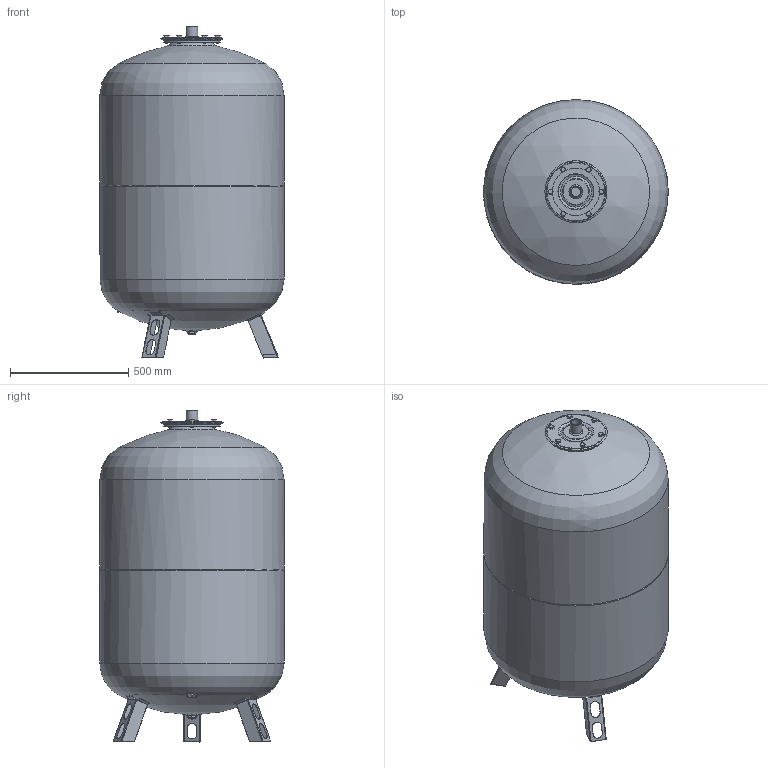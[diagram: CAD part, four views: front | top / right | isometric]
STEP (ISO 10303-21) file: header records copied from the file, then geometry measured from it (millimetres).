
FILE_DESCRIPTION(('STEP AP214'), '1');
FILE_NAME('WRV-500', '', ('UNSPECIFIED'), ('UNSPECIFIED'), 'ASCON STEP Converter 1.3', 'ASCON Math Kernel', '');
FILE_SCHEMA(('AUTOMOTIVE_DESIGN { 1 0 10303 214 3 1 1}'));
Length unit declared in the file: millimetre
Assembly tree (1 placements, depth 2):
  (unnamed)
    (unnamed)
Bounding box: 781.41 x 782.15 x 1405 mm (x, y, z)
Volume: 513567025.9 mm3; surface area: 3648175.6 mm2
Topology: 1 solids, 2 shells, 376 faces, 1011 edges, 666 vertices
Faces by surface type: plane 224, cylinder 83, cone 53, torus 13, sphere 2, bspline 1
Full cylindrical faces by diameter (mm): 3 x1, 4 x1, 4.3 x1, 5.5 x1, 8 x2, 12 x13, 13 x6, 18.6 x1, 26.4 x1, 38.952 x1, 47 x1, 48 x1, 49 x1, 200 x1, 240 x1, 780 x2
Entity records: 18113 total; most frequent: CARTESIAN_POINT 5798, DIRECTION 1871, ORIENTED_EDGE 1854, EDGE_CURVE 927, AXIS2_PLACEMENT_3D 713, VERTEX_POINT 665, EDGE_LOOP 526, FACE_BOUND 475
